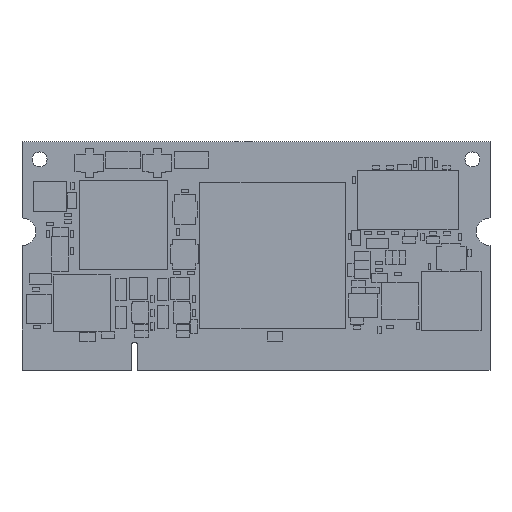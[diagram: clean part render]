
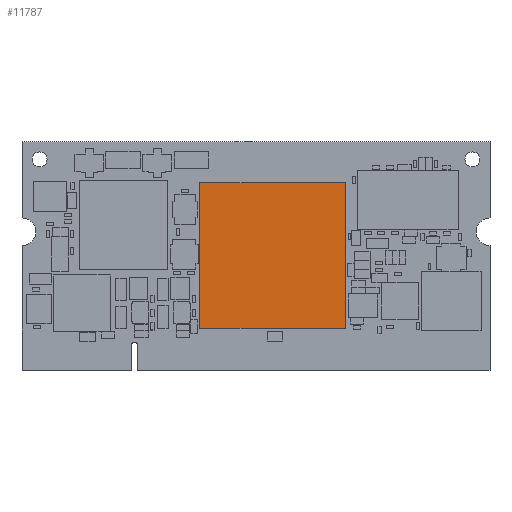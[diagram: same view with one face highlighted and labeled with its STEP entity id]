
A CAD part, top view. The second image highlights one B-rep face of the part: STEP entity #11787.
In plain terms, the highlighted planar face has unit normal (0, 0, 1).
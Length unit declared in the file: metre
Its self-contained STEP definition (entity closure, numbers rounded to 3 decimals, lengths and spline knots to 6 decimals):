
#3977 = ORIENTED_EDGE ( 'NONE', *, *, #60225, .T. ) ;
#4964 = EDGE_CURVE ( 'NONE', #56472, #31765, #26751, .T. ) ;
#5408 = DIRECTION ( 'NONE',  ( 1., 0., 0. ) ) ;
#9645 = DIRECTION ( 'NONE',  ( 0., 1., 0. ) ) ;
#11787 = ADVANCED_FACE ( 'NONE', ( #60962 ), #57401, .F. ) ;
#11907 = CARTESIAN_POINT ( 'NONE',  ( 0.054814, 0.016071, 0.00316 ) ) ;
#13112 = CARTESIAN_POINT ( 'NONE',  ( 0.054814, 0.016071, 0.00316 ) ) ;
#13693 = DIRECTION ( 'NONE',  ( -1., 0., 0. ) ) ;
#13771 = VERTEX_POINT ( 'NONE', #13112 ) ;
#16171 = CARTESIAN_POINT ( 'NONE',  ( 0.054814, 0.037071, 0.00316 ) ) ;
#17330 = VECTOR ( 'NONE', #33587, 1. ) ;
#20212 = CARTESIAN_POINT ( 'NONE',  ( 0.033814, 0.037071, 0.00316 ) ) ;
#20960 = EDGE_CURVE ( 'NONE', #13771, #56472, #22684, .T. ) ;
#22157 = VECTOR ( 'NONE', #5408, 1. ) ;
#22684 = LINE ( 'NONE', #16171, #62400 ) ;
#26751 = LINE ( 'NONE', #20212, #42921 ) ;
#31765 = VERTEX_POINT ( 'NONE', #55984 ) ;
#32662 = VERTEX_POINT ( 'NONE', #45098 ) ;
#33587 = DIRECTION ( 'NONE',  ( 0., -1., 0. ) ) ;
#37817 = DIRECTION ( 'NONE',  ( -1., 0., 0. ) ) ;
#40146 = CARTESIAN_POINT ( 'NONE',  ( 0.033814, 0.016071, 0.00316 ) ) ;
#42921 = VECTOR ( 'NONE', #13693, 1. ) ;
#44337 = DIRECTION ( 'NONE',  ( 0., 0., -1. ) ) ;
#44576 = LINE ( 'NONE', #11907, #22157 ) ;
#45098 = CARTESIAN_POINT ( 'NONE',  ( 0.033814, 0.016071, 0.00316 ) ) ;
#45833 = ORIENTED_EDGE ( 'NONE', *, *, #58983, .T. ) ;
#48965 = EDGE_LOOP ( 'NONE', ( #53165, #3977, #45833, #57062 ) ) ;
#49474 = AXIS2_PLACEMENT_3D ( 'NONE', #50876, #44337, #37817 ) ;
#50876 = CARTESIAN_POINT ( 'NONE',  ( 0., 0., 0.00316 ) ) ;
#53165 = ORIENTED_EDGE ( 'NONE', *, *, #4964, .T. ) ;
#53180 = LINE ( 'NONE', #40146, #17330 ) ;
#53787 = CARTESIAN_POINT ( 'NONE',  ( 0.054814, 0.037071, 0.00316 ) ) ;
#55984 = CARTESIAN_POINT ( 'NONE',  ( 0.033814, 0.037071, 0.00316 ) ) ;
#56472 = VERTEX_POINT ( 'NONE', #53787 ) ;
#57062 = ORIENTED_EDGE ( 'NONE', *, *, #20960, .T. ) ;
#57401 = PLANE ( 'NONE',  #49474 ) ;
#58983 = EDGE_CURVE ( 'NONE', #32662, #13771, #44576, .T. ) ;
#60225 = EDGE_CURVE ( 'NONE', #31765, #32662, #53180, .T. ) ;
#60962 = FACE_OUTER_BOUND ( 'NONE', #48965, .T. ) ;
#62400 = VECTOR ( 'NONE', #9645, 1. ) ;
